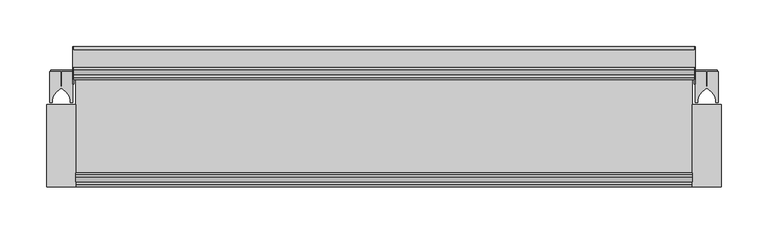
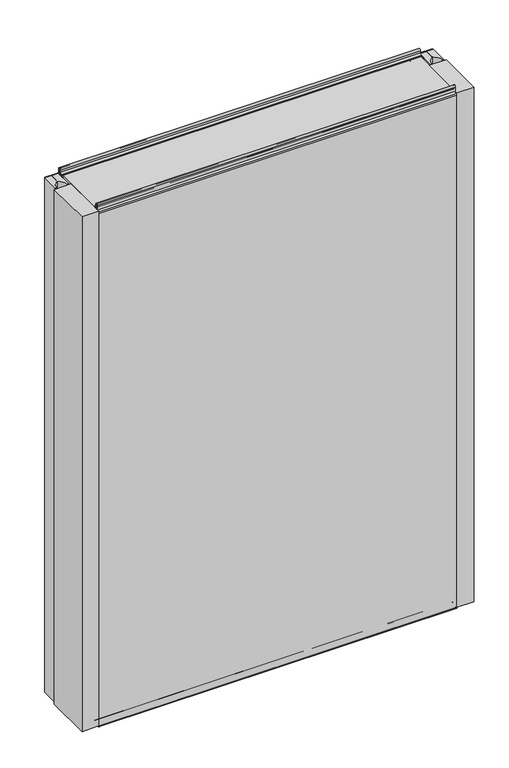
"""IFC4 building model written with IfcOpenShell, lengths in millimetres: plate geometry, Fronttop : Fronttop 150/1000."""

from ifc_helpers import new_model, si_unit, point, frame, frame_2d, origin, origin_with_axes, place, context, project, spatial, polyline, circle_curve, trimmed, segment, composite_curve, outline, extrude, source, transform, mapped, element, save
from ifc_brep_helpers import plane_surface, cylinder_surface, revolved_surface, advanced_brep


def plate_355e1d5d(model_context):
    return source(origin(), model_context, "Body", "SolidModel", [
        advanced_brep(
        [(-331.5, 124.0, 1008.0), (-331.5, 121.0, 1008.0), (-331.5, 121.0, 1004.0), (-331.5, 117.0, 1000.0), (-331.5, 115.0, 1000.0), (-331.5, 115.0, 1001.0), (-331.5, 117.0, 1001.0), (-331.5, 120.0, 1004.0), (-331.5, 120.0, 1008.0), (-331.5, 125.0, 1008.0), (-331.5, 125.0, 1000.0), (-331.5, 124.0, 1000.0), (331.5, 125.0, 1008.0), (331.5, 120.0, 1008.0), (331.5, 120.0, 1004.0), (331.5, 117.0, 1001.0), (331.5, 115.0, 1001.0), (331.5, 115.0, 1000.0), (331.5, 117.0, 1000.0), (331.5, 121.0, 1004.0), (331.5, 121.0, 1008.0), (331.5, 124.0, 1008.0), (331.5, 124.0, 1000.0), (331.5, 125.0, 1000.0), (-331.5, 117.0, 2.0), (331.5, 117.0, 2.0), (331.5, 115.0, 2.0), (-331.5, 115.0, 2.0), (-331.5, 119.0, 4.0), (331.5, 119.0, 4.0), (-331.5, 119.0, 8.0), (331.5, 119.0, 8.0), (-331.5, 126.0, 8.0), (331.5, 126.0, 8.0), (-331.5, 126.0, 0.0), (331.5, 126.0, 0.0), (-331.5, 129.0, -3.0), (331.5, 129.0, -3.0), (-331.5, 125.0, -3.0), (-332.5, 125.0, -3.0), (-332.5, 147.0, -3.0), (-331.5, 147.0, -3.0), (331.5, 147.0, -3.0), (332.5, 147.0, -3.0), (332.5, 125.0, -3.0), (331.5, 125.0, -3.0), (-331.5, 150.0, 0.0), (331.5, 150.0, 0.0), (-332.5, 150.0, 0.0), (-332.5, 150.0, 969.0), (-331.5, 150.0, 969.0), (331.5, 150.0, 969.0), (332.5, 150.0, 969.0), (332.5, 150.0, 0.0), (-331.5, 147.0, 972.0), (331.5, 147.0, 972.0), (-332.5, 147.0, 972.0), (-332.5, 128.0, 972.0), (-331.5, 128.0, 972.0), (331.5, 128.0, 972.0), (332.5, 128.0, 972.0), (332.5, 147.0, 972.0), (-331.5, 125.0, 975.0), (331.5, 125.0, 975.0), (-332.5, 125.0, 975.0), (-332.5, 125.0, 1000.0), (332.5, 125.0, 1000.0), (332.5, 125.0, 975.0), (-331.5, 124.0, 975.0), (331.5, 124.0, 975.0), (-331.5, 128.0, 971.0), (331.5, 128.0, 971.0), (-331.5, 147.0, 971.0), (331.5, 147.0, 971.0), (-331.5, 149.0, 969.0), (331.5, 149.0, 969.0), (-331.5, 149.0, 0.0), (331.5, 149.0, 0.0), (-331.5, 147.0, -2.0), (331.5, 147.0, -2.0), (-331.5, 129.0, -2.0), (331.5, 129.0, -2.0), (-331.5, 127.0, 0.0), (331.5, 127.0, 0.0), (-331.5, 127.0, 8.0), (331.5, 127.0, 8.0), (-331.5, 118.0, 8.0), (331.5, 118.0, 8.0), (-331.5, 118.0, 4.0), (331.5, 118.0, 4.0), (-331.5, 117.0, 3.0), (331.5, 117.0, 3.0), (-331.5, 115.0, 3.0), (331.5, 115.0, 3.0), (332.5, 110.0, 1000.0), (332.5, 110.0, 0.0), (332.5, 125.0, 0.0), (331.5, 125.0, 0.0), (331.5, 110.0, 0.0), (331.5, 110.0, 1000.0), (-332.5, 125.0, 0.0), (-332.5, 110.0, 0.0), (-332.5, 110.0, 1000.0), (-331.5, 110.0, 1000.0), (-331.5, 110.0, 0.0), (-331.5, 125.0, 0.0)],
        [
            (0, 1, circle_curve(frame((-331.5, 122.5, 1008.0), z_axis=(1.0, 0.0, 0.0), x_axis=(0.0, -1.0, 0.0)), 1.5)),
            (1, 2),
            (2, 3, circle_curve(frame((-331.5, 117.0, 1004.0), z_axis=(-1.0, 0.0, 0.0), x_axis=(0.0, -1.0, 0.0)), 4.0)),
            (3, 4),
            (4, 5),
            (5, 6),
            (6, 7, circle_curve(frame((-331.5, 117.0, 1004.0), z_axis=(1.0, 0.0, 0.0), x_axis=(0.0, -1.0, 0.0)), 3.0)),
            (7, 8),
            (8, 9, circle_curve(frame((-331.5, 122.5, 1008.0), z_axis=(-1.0, 0.0, 0.0), x_axis=(0.0, -1.0, 0.0)), 2.5)),
            (9, 10),
            (10, 11),
            (11, 0),
            (12, 13, circle_curve(frame((331.5, 122.5, 1008.0), z_axis=(1.0, 0.0, 0.0), x_axis=(0.0, -1.0, 0.0)), 2.5)),
            (13, 14),
            (14, 15, circle_curve(frame((331.5, 117.0, 1004.0), z_axis=(-1.0, 0.0, 0.0), x_axis=(0.0, -1.0, 0.0)), 3.0)),
            (15, 16),
            (16, 17),
            (17, 18),
            (18, 19, circle_curve(frame((331.5, 117.0, 1004.0), z_axis=(1.0, 0.0, 0.0), x_axis=(0.0, -1.0, 0.0)), 4.0)),
            (19, 20),
            (20, 21, circle_curve(frame((331.5, 122.5, 1008.0), z_axis=(-1.0, 0.0, 0.0), x_axis=(0.0, -1.0, 0.0)), 1.5)),
            (21, 22),
            (22, 23),
            (23, 12),
            (24, 25),
            (25, 26),
            (26, 27),
            (27, 24),
            (24, 28, circle_curve(frame((-331.5, 117.0, 4.0), z_axis=(1.0, 0.0, 0.0), x_axis=(0.0, -1.0, 0.0)), 2.0)),
            (28, 29),
            (29, 25, circle_curve(frame((331.5, 117.0, 4.0), z_axis=(-1.0, 0.0, 0.0), x_axis=(0.0, -1.0, 0.0)), 2.0)),
            (28, 30),
            (30, 31),
            (31, 29),
            (30, 32, circle_curve(frame((-331.5, 122.5, 8.0), z_axis=(-1.0, 0.0, 0.0), x_axis=(0.0, -1.0, 0.0)), 3.5)),
            (32, 33),
            (33, 31, circle_curve(frame((331.5, 122.5, 8.0), z_axis=(1.0, 0.0, 0.0), x_axis=(0.0, -1.0, 0.0)), 3.5)),
            (32, 34),
            (34, 35),
            (35, 33),
            (34, 36, circle_curve(frame((-331.5, 129.0, 0.0), z_axis=(1.0, 0.0, 0.0), x_axis=(0.0, -1.0, 0.0)), 3.0)),
            (36, 37),
            (37, 35, circle_curve(frame((331.5, 129.0, 0.0), z_axis=(-1.0, 0.0, 0.0), x_axis=(0.0, -1.0, 0.0)), 3.0)),
            (36, 38),
            (38, 39),
            (39, 40),
            (40, 41),
            (41, 42),
            (42, 43),
            (43, 44),
            (44, 45),
            (45, 37),
            (41, 46, circle_curve(frame((-331.5, 147.0, 0.0), z_axis=(1.0, 0.0, 0.0), x_axis=(0.0, -1.0, 0.0)), 3.0)),
            (46, 47),
            (47, 42, circle_curve(frame((331.5, 147.0, 0.0), z_axis=(-1.0, 0.0, 0.0), x_axis=(0.0, -1.0, 0.0)), 3.0)),
            (46, 48),
            (48, 49),
            (49, 50),
            (50, 51),
            (51, 52),
            (52, 53),
            (53, 47),
            (50, 54, circle_curve(frame((-331.5, 147.0, 969.0), z_axis=(1.0, 0.0, 0.0), x_axis=(0.0, -1.0, 0.0)), 3.0)),
            (54, 55),
            (55, 51, circle_curve(frame((331.5, 147.0, 969.0), z_axis=(-1.0, 0.0, 0.0), x_axis=(0.0, -1.0, 0.0)), 3.0)),
            (54, 56),
            (56, 57),
            (57, 58),
            (58, 59),
            (59, 60),
            (60, 61),
            (61, 55),
            (58, 62, circle_curve(frame((-331.5, 128.0, 975.0), z_axis=(-1.0, 0.0, 0.0), x_axis=(0.0, -1.0, 0.0)), 3.0)),
            (62, 63),
            (63, 59, circle_curve(frame((331.5, 128.0, 975.0), z_axis=(1.0, 0.0, 0.0), x_axis=(0.0, -1.0, 0.0)), 3.0)),
            (62, 64),
            (64, 65),
            (65, 10),
            (9, 12),
            (23, 66),
            (66, 67),
            (67, 63),
            (8, 13),
            (7, 14),
            (6, 15),
            (5, 16),
            (4, 17),
            (4, 3),
            (3, 18),
            (18, 17),
            (2, 19),
            (1, 20),
            (0, 21),
            (11, 68),
            (68, 69),
            (69, 22),
            (68, 70, circle_curve(frame((-331.5, 128.0, 975.0), z_axis=(1.0, 0.0, 0.0), x_axis=(0.0, -1.0, 0.0)), 4.0)),
            (70, 71),
            (71, 69, circle_curve(frame((331.5, 128.0, 975.0), z_axis=(-1.0, 0.0, 0.0), x_axis=(0.0, -1.0, 0.0)), 4.0)),
            (70, 72),
            (72, 73),
            (73, 71),
            (72, 74, circle_curve(frame((-331.5, 147.0, 969.0), z_axis=(-1.0, 0.0, 0.0), x_axis=(0.0, -1.0, 0.0)), 2.0)),
            (74, 75),
            (75, 73, circle_curve(frame((331.5, 147.0, 969.0), z_axis=(1.0, 0.0, 0.0), x_axis=(0.0, -1.0, 0.0)), 2.0)),
            (74, 76),
            (76, 77),
            (77, 75),
            (76, 78, circle_curve(frame((-331.5, 147.0, 0.0), z_axis=(-1.0, 0.0, 0.0), x_axis=(0.0, -1.0, 0.0)), 2.0)),
            (78, 79),
            (79, 77, circle_curve(frame((331.5, 147.0, 0.0), z_axis=(1.0, 0.0, 0.0), x_axis=(0.0, -1.0, 0.0)), 2.0)),
            (78, 80),
            (80, 81),
            (81, 79),
            (80, 82, circle_curve(frame((-331.5, 129.0, 0.0), z_axis=(-1.0, 0.0, 0.0), x_axis=(0.0, -1.0, 0.0)), 2.0)),
            (82, 83),
            (83, 81, circle_curve(frame((331.5, 129.0, 0.0), z_axis=(1.0, 0.0, 0.0), x_axis=(0.0, -1.0, 0.0)), 2.0)),
            (82, 84),
            (84, 85),
            (85, 83),
            (84, 86, circle_curve(frame((-331.5, 122.5, 8.0), z_axis=(1.0, 0.0, 0.0), x_axis=(0.0, -1.0, 0.0)), 4.5)),
            (86, 87),
            (87, 85, circle_curve(frame((331.5, 122.5, 8.0), z_axis=(-1.0, 0.0, 0.0), x_axis=(0.0, -1.0, 0.0)), 4.5)),
            (86, 88),
            (88, 89),
            (89, 87),
            (88, 90, circle_curve(frame((-331.5, 117.0, 4.0), z_axis=(-1.0, 0.0, 0.0), x_axis=(0.0, -1.0, 0.0)), 1.0)),
            (90, 91),
            (91, 89, circle_curve(frame((331.5, 117.0, 4.0), z_axis=(1.0, 0.0, 0.0), x_axis=(0.0, -1.0, 0.0)), 1.0)),
            (90, 92),
            (92, 93),
            (93, 91),
            (26, 93),
            (92, 27),
            (66, 94),
            (94, 95),
            (95, 96),
            (96, 44),
            (43, 53, circle_curve(frame((332.5, 147.0, 0.0), z_axis=(1.0, 0.0, 0.0), x_axis=(0.0, 1.0, 0.0)), 3.0)),
            (52, 61, circle_curve(frame((332.5, 147.0, 969.0), z_axis=(1.0, 0.0, 0.0), x_axis=(0.0, 1.0, 0.0)), 3.0)),
            (60, 67, circle_curve(frame((332.5, 128.0, 975.0), z_axis=(-1.0, 0.0, 0.0), x_axis=(0.0, 1.0, 0.0)), 3.0)),
            (45, 97),
            (97, 98),
            (98, 99),
            (99, 17),
            (18, 22),
            (99, 94),
            (98, 95),
            (97, 96),
            (64, 57, circle_curve(frame((-332.5, 128.0, 975.0), z_axis=(1.0, 0.0, 0.0), x_axis=(0.0, 1.0, 0.0)), 3.0)),
            (56, 49, circle_curve(frame((-332.5, 147.0, 969.0), z_axis=(-1.0, 0.0, 0.0), x_axis=(0.0, 1.0, 0.0)), 3.0)),
            (48, 40, circle_curve(frame((-332.5, 147.0, 0.0), z_axis=(-1.0, 0.0, 0.0), x_axis=(0.0, 1.0, 0.0)), 3.0)),
            (39, 100),
            (100, 101),
            (101, 102),
            (102, 65),
            (103, 104),
            (104, 105),
            (105, 38),
            (11, 3),
            (4, 103),
            (102, 103),
            (101, 104),
            (100, 105),
        ],
        [
            plane_surface(frame((-331.5, 0.0, 0.0), z_axis=(-1.0, 0.0, 0.0), x_axis=(0.0, 0.0, 1.0))),
            plane_surface(frame((331.5, 0.0, 0.0), z_axis=(1.0, 0.0, 0.0), x_axis=(0.0, 0.0, 1.0))),
            plane_surface(frame((-331.5, 117.0, 2.0), z_axis=(0.0, 0.0, -1.0), x_axis=(1.0, 0.0, 0.0))),
            cylinder_surface(frame((-331.5, 117.0, 4.0), z_axis=(-1.0, 0.0, 0.0), x_axis=(0.0, -1.0, 0.0)), 2.0),
            plane_surface(frame((-331.5, 119.0, 8.0), z_axis=(0.0, 1.0, 0.0), x_axis=(1.0, 0.0, 0.0))),
            revolved_surface(polyline([(331.5, 119.0, 8.0), (-331.5, 119.0, 8.0)]), (-331.5, 122.5, 8.0), (1.0, 0.0, 0.0)),
            plane_surface(frame((-331.5, 126.0, 0.0), z_axis=(0.0, -1.0, 0.0), x_axis=(1.0, 0.0, 0.0))),
            cylinder_surface(frame((-331.5, 129.0, 0.0), z_axis=(-1.0, 0.0, 0.0), x_axis=(0.0, -1.0, 0.0)), 3.0),
            plane_surface(frame((-331.5, 147.0, -3.0), z_axis=(0.0, 0.0, -1.0), x_axis=(1.0, 0.0, 0.0))),
            cylinder_surface(frame((-331.5, 147.0, 0.0), z_axis=(-1.0, 0.0, 0.0), x_axis=(0.0, -1.0, 0.0)), 3.0),
            plane_surface(frame((-331.5, 150.0, 969.0), z_axis=(0.0, 1.0, 0.0), x_axis=(1.0, 0.0, 0.0))),
            cylinder_surface(frame((-331.5, 147.0, 969.0), z_axis=(-1.0, 0.0, 0.0), x_axis=(0.0, -1.0, 0.0)), 3.0),
            plane_surface(frame((-331.5, 128.0, 972.0), z_axis=(0.0, 0.0, 1.0), x_axis=(1.0, 0.0, 0.0))),
            revolved_surface(polyline([(331.5, 125.0, 975.0), (-331.5, 125.0, 975.0)]), (-331.5, 128.0, 975.0), (1.0, 0.0, 0.0)),
            plane_surface(frame((-331.5, 125.0, 1008.0), z_axis=(0.0, 1.0, 0.0), x_axis=(1.0, 0.0, 0.0))),
            cylinder_surface(frame((-331.5, 122.5, 1008.0), z_axis=(-1.0, 0.0, 0.0), x_axis=(0.0, -1.0, 0.0)), 2.5),
            plane_surface(frame((-331.5, 120.0, 1004.0), z_axis=(0.0, -1.0, 0.0), x_axis=(1.0, 0.0, 0.0))),
            revolved_surface(polyline([(331.5, 114.0, 1004.0), (-331.5, 114.0, 1004.0)]), (-331.5, 117.0, 1004.0), (1.0, 0.0, 0.0)),
            plane_surface(frame((-331.5, 115.0, 1001.0), z_axis=(0.0, 0.0, 1.0), x_axis=(1.0, 0.0, 0.0))),
            plane_surface(frame((-331.5, 115.0, 1000.0), z_axis=(0.0, -1.0, 0.0), x_axis=(1.0, 0.0, 0.0))),
            plane_surface(frame((-331.5, 117.0, 1000.0), z_axis=(0.0, 0.0, -1.0), x_axis=(1.0, 0.0, 0.0))),
            cylinder_surface(frame((-331.5, 117.0, 1004.0), z_axis=(-1.0, 0.0, 0.0), x_axis=(0.0, -1.0, 0.0)), 4.0),
            plane_surface(frame((-331.5, 121.0, 1008.0), z_axis=(0.0, 1.0, 0.0), x_axis=(1.0, 0.0, 0.0))),
            revolved_surface(polyline([(331.5, 121.0, 1008.0), (-331.5, 121.0, 1008.0)]), (-331.5, 122.5, 1008.0), (1.0, 0.0, 0.0)),
            plane_surface(frame((-331.5, 124.0, 975.0), z_axis=(0.0, -1.0, 0.0), x_axis=(1.0, 0.0, 0.0))),
            cylinder_surface(frame((-331.5, 128.0, 975.0), z_axis=(-1.0, 0.0, 0.0), x_axis=(0.0, -1.0, 0.0)), 4.0),
            plane_surface(frame((-331.5, 147.0, 971.0), z_axis=(0.0, 0.0, -1.0), x_axis=(1.0, 0.0, 0.0))),
            revolved_surface(polyline([(331.5, 145.0, 969.0), (-331.5, 145.0, 969.0)]), (-331.5, 147.0, 969.0), (1.0, 0.0, 0.0)),
            plane_surface(frame((-331.5, 149.0, 0.0), z_axis=(0.0, -1.0, 0.0), x_axis=(1.0, 0.0, 0.0))),
            revolved_surface(polyline([(331.5, 145.0, 0.0), (-331.5, 145.0, 0.0)]), (-331.5, 147.0, 0.0), (1.0, 0.0, 0.0)),
            plane_surface(frame((-331.5, 129.0, -2.0), z_axis=(0.0, 0.0, 1.0), x_axis=(1.0, 0.0, 0.0))),
            revolved_surface(polyline([(331.5, 127.0, 0.0), (-331.5, 127.0, 0.0)]), (-331.5, 129.0, 0.0), (1.0, 0.0, 0.0)),
            plane_surface(frame((-331.5, 127.0, 8.0), z_axis=(0.0, 1.0, 0.0), x_axis=(1.0, 0.0, 0.0))),
            cylinder_surface(frame((-331.5, 122.5, 8.0), z_axis=(-1.0, 0.0, 0.0), x_axis=(0.0, -1.0, 0.0)), 4.5),
            plane_surface(frame((-331.5, 118.0, 4.0), z_axis=(0.0, -1.0, 0.0), x_axis=(1.0, 0.0, 0.0))),
            revolved_surface(polyline([(331.5, 116.0, 4.0), (-331.5, 116.0, 4.0)]), (-331.5, 117.0, 4.0), (1.0, 0.0, 0.0)),
            plane_surface(frame((-331.5, 115.0, 3.0), z_axis=(0.0, 0.0, 1.0), x_axis=(1.0, 0.0, 0.0))),
            plane_surface(frame((-331.5, 115.0, 2.0), z_axis=(0.0, -1.0, 0.0), x_axis=(1.0, 0.0, 0.0))),
            plane_surface(frame((332.5, 125.0, 1000.0), z_axis=(1.0, 0.0, 0.0), x_axis=(0.0, -1.0, 0.0))),
            plane_surface(frame((331.5, 125.0, 1000.0), z_axis=(-1.0, 0.0, 0.0), x_axis=(0.0, 1.0, 0.0))),
            plane_surface(frame((332.5, 125.0, 1000.0), z_axis=(0.0, 0.0, 1.0), x_axis=(-1.0, 0.0, 0.0))),
            plane_surface(frame((332.5, 110.0, 1000.0), z_axis=(0.0, -1.0, 0.0), x_axis=(-1.0, 0.0, 0.0))),
            plane_surface(frame((332.5, 110.0, 0.0), z_axis=(0.0, 0.0, -1.0), x_axis=(-1.0, 0.0, 0.0))),
            cylinder_surface(frame((331.5, 147.0, 0.0), z_axis=(1.0, 0.0, 0.0), x_axis=(0.0, 1.0, 0.0)), 3.0),
            cylinder_surface(frame((331.5, 147.0, 969.0), z_axis=(1.0, 0.0, 0.0), x_axis=(0.0, 1.0, 0.0)), 3.0),
            revolved_surface(polyline([(331.5, 131.0, 975.0), (332.5, 131.0, 975.0)]), (331.5, 128.0, 975.0), (-1.0, 0.0, 0.0)),
            plane_surface(frame((-332.5, 125.0, 1000.0), z_axis=(-1.0, 0.0, 0.0), x_axis=(0.0, 1.0, 0.0))),
            plane_surface(frame((-331.5, 125.0, 1000.0), z_axis=(1.0, 0.0, 0.0), x_axis=(0.0, -1.0, 0.0))),
            plane_surface(frame((-331.5, 125.0, 1000.0), z_axis=(0.0, 0.0, 1.0), x_axis=(-1.0, 0.0, 0.0))),
            plane_surface(frame((-331.5, 110.0, 1000.0), z_axis=(0.0, -1.0, 0.0), x_axis=(-1.0, 0.0, 0.0))),
            plane_surface(frame((-331.5, 110.0, 0.0), z_axis=(0.0, 0.0, -1.0), x_axis=(-1.0, 0.0, 0.0))),
            cylinder_surface(frame((-332.5, 147.0, 0.0), z_axis=(1.0, 0.0, 0.0), x_axis=(0.0, 1.0, 0.0)), 3.0),
            cylinder_surface(frame((-332.5, 147.0, 969.0), z_axis=(1.0, 0.0, 0.0), x_axis=(0.0, 1.0, 0.0)), 3.0),
            revolved_surface(polyline([(-332.5, 131.0, 975.0), (-331.5, 131.0, 975.0)]), (-332.5, 128.0, 975.0), (-1.0, 0.0, 0.0)),
            plane_surface(frame((332.5, 125.0, 0.0), z_axis=(0.0, -1.0, 0.0), x_axis=(-1.0, 0.0, 0.0))),
            plane_surface(frame((-331.5, 125.0, 0.0), z_axis=(0.0, -1.0, 0.0), x_axis=(-1.0, 0.0, 0.0))),
        ],
        [
            (0, [[1, 2, 3, 4, 5, 6, 7, 8, 9, 10, 11, 12]]),
            (1, [[13, 14, 15, 16, 17, 18, 19, 20, 21, 22, 23, 24]]),
            (2, [[25, 26, 27, 28]]),
            (3, [[-25, 29, 30, 31]]),
            (4, [[-30, 32, 33, 34]]),
            (5, [[-33, 35, 36, 37]]),
            (6, [[-36, 38, 39, 40]]),
            (7, [[-39, 41, 42, 43]]),
            (8, [[-42, 44, 45, 46, 47, 48, 49, 50, 51, 52]]),
            (9, [[-48, 53, 54, 55]]),
            (10, [[-54, 56, 57, 58, 59, 60, 61, 62]]),
            (11, [[-59, 63, 64, 65]]),
            (12, [[-64, 66, 67, 68, 69, 70, 71, 72]]),
            (13, [[-69, 73, 74, 75]]),
            (14, [[-74, 76, 77, 78, -10, 79, -24, 80, 81, 82]]),
            (15, [[-9, 83, -13, -79]]),
            (16, [[-8, 84, -14, -83]]),
            (17, [[-7, 85, -15, -84]]),
            (18, [[-6, 86, -16, -85]]),
            (19, [[-5, 87, -17, -86]]),
            (20, [[-87, 88, 89, 90]]),
            (21, [[-3, 91, -19, -89]]),
            (22, [[-2, 92, -20, -91]]),
            (23, [[-1, 93, -21, -92]]),
            (24, [[-93, -12, 94, 95, 96, -22]]),
            (25, [[-95, 97, 98, 99]]),
            (26, [[-98, 100, 101, 102]]),
            (27, [[-101, 103, 104, 105]]),
            (28, [[-104, 106, 107, 108]]),
            (29, [[-107, 109, 110, 111]]),
            (30, [[-110, 112, 113, 114]]),
            (31, [[-113, 115, 116, 117]]),
            (32, [[-116, 118, 119, 120]]),
            (33, [[-119, 121, 122, 123]]),
            (34, [[-122, 124, 125, 126]]),
            (35, [[-125, 127, 128, 129]]),
            (36, [[-128, 130, 131, 132]]),
            (37, [[-27, 133, -131, 134]]),
            (38, [[135, 136, 137, 138, -50, 139, -61, 140, -71, 141, -81]]),
            (39, [[142, 143, 144, 145, -90, 146, -96, -99, -102, -105, -108, -111, -114, -117, -120, -123, -126, -129, -132, -133, -26, -31, -34, -37, -40, -43, -52]]),
            (40, [[-135, -80, -23, -146, -18, -145, 147]]),
            (41, [[-136, -147, -144, 148]]),
            (42, [[-137, -148, -143, 149]]),
            (43, [[-139, -49, -55, -62]]),
            (44, [[-140, -60, -65, -72]]),
            (45, [[-141, -70, -75, -82]]),
            (46, [[-77, 150, -67, 151, -57, 152, -46, 153, 154, 155, 156]]),
            (47, [[157, 158, 159, -44, -41, -38, -35, -32, -29, -28, -134, -130, -127, -124, -121, -118, -115, -112, -109, -106, -103, -100, -97, -94, 160, -88, 161]]),
            (48, [[-156, 162, -161, -4, -160, -11, -78]]),
            (49, [[-155, 163, -157, -162]]),
            (50, [[-154, 164, -158, -163]]),
            (51, [[-152, -56, -53, -47]]),
            (52, [[-151, -66, -63, -58]]),
            (53, [[-150, -76, -73, -68]]),
            (54, [[-138, -149, -142, -51]]),
            (55, [[-153, -45, -159, -164]]),
        ],
    ),
        extrude(outline(composite_curve([segment(polyline([(-357.5001545, 123.5), (-345.75, 123.5), (-345.75, 107.5), (-344.25, 107.5), (-344.25, 123.5), (-332.4998455, 123.5), (-332.4998455, 90.0), (-335.25, 90.0), (-335.25, 92.5)]), True, "CONTINUOUS"), segment(trimmed(circle_curve(frame_2d((-353.0338021, 89.3183984)), 18.0661619), [point((-335.25, 92.5))], [point((-345.0, 105.5))], True, "CARTESIAN"), True, "CONTINUOUS"), segment(trimmed(circle_curve(frame_2d((-336.9661979, 89.3183984)), 18.0661619), [point((-345.0, 105.5))], [point((-354.75, 92.5))], True, "CARTESIAN"), True, "CONTINUOUS"), segment(polyline([(-354.75, 92.5), (-354.75, 90.0), (-357.5001545, 90.0), (-357.5001545, 123.5)]), True, "CONTINUOUS")], self_intersect=False)), origin_with_axes(), (0.0, 0.0, 1.0), 1000.0),
        extrude(outline(polyline([(-329.5, 0.0), (-360.5, 0.0), (-360.5, 88.0), (-329.5, 88.0), (-329.5, 0.0)])), origin_with_axes(), (0.0, 0.0, 1.0), 1000.0),
        extrude(outline(polyline([(-356.5051154, 125.0), (-333.4948846, 125.0), (-333.4948846, 123.5), (-344.3497504, 123.5), (-344.3497504, 109.0759655), (-345.65, 109.0759655), (-345.65, 123.5), (-356.5051154, 123.5), (-356.5051154, 125.0)])), origin_with_axes(), (0.0, 0.0, 1.0), 1000.0),
        extrude(outline(composite_curve([segment(polyline([(332.4998455, 123.5), (344.25, 123.5), (344.25, 107.5), (345.75, 107.5), (345.75, 123.5), (357.5001545, 123.5), (357.5001545, 90.0), (354.75, 90.0), (354.75, 92.5)]), True, "CONTINUOUS"), segment(trimmed(circle_curve(frame_2d((336.9661979, 89.3183984)), 18.0661619), [point((354.75, 92.5))], [point((345.0, 105.5))], True, "CARTESIAN"), True, "CONTINUOUS"), segment(trimmed(circle_curve(frame_2d((353.0338021, 89.3183984)), 18.0661619), [point((345.0, 105.5))], [point((335.25, 92.5))], True, "CARTESIAN"), True, "CONTINUOUS"), segment(polyline([(335.25, 92.5), (335.25, 90.0), (332.4998455, 90.0), (332.4998455, 123.5)]), True, "CONTINUOUS")], self_intersect=False)), origin_with_axes(), (0.0, 0.0, 1.0), 1000.0),
        extrude(outline(polyline([(360.5, 0.0), (329.5, 0.0), (329.5, 88.0), (360.5, 88.0), (360.5, 0.0)])), origin_with_axes(), (0.0, 0.0, 1.0), 1000.0),
        extrude(outline(polyline([(333.4948846, 125.0), (356.5051154, 125.0), (356.5051154, 123.5), (345.6502496, 123.5), (345.6502496, 109.0759655), (344.35, 109.0759655), (344.35, 123.5), (333.4948846, 123.5), (333.4948846, 125.0)])), origin_with_axes(), (0.0, 0.0, 1.0), 1000.0),
        advanced_brep(
        [(-329.5, 13.0, 1001.0), (-329.5, 15.0, 1001.0), (-329.5, 15.0, 1000.0), (-329.5, 13.0, 1000.0), (-329.5, 9.0, 1004.0), (-329.5, 9.0, 1008.0), (-329.5, 6.0, 1008.0), (-329.5, 6.0, 999.5), (-329.5, 2.1134897, 996.0214069), (-329.5, 1.0, 995.0), (-329.5, 1.0, -0.5), (-329.5, 3.0, -0.5), (-329.5, 3.0, 8.0), (-329.5, 12.0, 8.0), (-329.5, 12.0, 4.0), (-329.5, 13.0, 3.0), (-329.5, 15.0, 3.0), (-329.5, 15.0, 2.0), (-329.5, 13.0, 2.0), (-329.5, 11.0, 4.0), (-329.5, 11.0, 8.0), (-329.5, 4.0, 8.0), (-329.5, 4.0, -0.5), (-329.5, 0.0, -0.5), (-329.5, 0.0, 995.0), (-329.5, 2.220863, 996.9877675), (-329.5, 5.0, 999.5), (-329.5, 5.0, 1008.0), (-329.5, 10.0, 1008.0), (-329.5, 10.0, 1004.0), (329.5, 13.0, 1001.0), (329.5, 10.0, 1004.0), (329.5, 10.0, 1008.0), (329.5, 5.0, 1008.0), (329.5, 5.0, 999.5), (329.5, 2.2239212, 997.0152907), (329.5, 0.0, 995.0), (329.5, 0.0, -0.5), (329.5, 4.0, -0.5), (329.5, 4.0, 8.0), (329.5, 11.0, 8.0), (329.5, 11.0, 4.0), (329.5, 13.0, 2.0), (329.5, 15.0, 2.0), (329.5, 15.0, 3.0), (329.5, 13.0, 3.0), (329.5, 12.0, 4.0), (329.5, 12.0, 8.0), (329.5, 3.0, 8.0), (329.5, 3.0, -0.5), (329.5, 1.0, -0.5), (329.5, 1.0, 995.0), (329.5, 2.1104315, 995.9938837), (329.5, 6.0, 999.5), (329.5, 6.0, 1008.0), (329.5, 9.0, 1008.0), (329.5, 9.0, 1004.0), (329.5, 13.0, 1000.0), (329.5, 15.0, 1000.0), (329.5, 15.0, 1001.0)],
        [
            (0, 1),
            (1, 2),
            (2, 3),
            (3, 4, circle_curve(frame((-329.5, 13.0, 1004.0), z_axis=(-1.0, 0.0, 0.0), x_axis=(0.0, -1.0, 0.0)), 4.0)),
            (4, 5),
            (5, 6, circle_curve(frame((-329.5, 7.5, 1008.0), z_axis=(1.0, 0.0, 0.0), x_axis=(0.0, -1.0, 0.0)), 1.5)),
            (6, 7),
            (7, 8, circle_curve(frame((-329.5, 2.5, 999.5), z_axis=(-1.0, 0.0, 0.0), x_axis=(0.0, -1.0, 0.0)), 3.5)),
            (8, 9, circle_curve(frame((-329.5, 2.0, 995.0), z_axis=(1.0, 0.0, 0.0), x_axis=(0.0, -1.0, 0.0)), 1.0)),
            (9, 10),
            (10, 11, circle_curve(frame((-329.5, 2.0, -0.5), z_axis=(1.0, 0.0, 0.0), x_axis=(0.0, -1.0, 0.0)), 1.0)),
            (11, 12),
            (12, 13, circle_curve(frame((-329.5, 7.5, 8.0), z_axis=(-1.0, 0.0, 0.0), x_axis=(0.0, -1.0, 0.0)), 4.5)),
            (13, 14),
            (14, 15, circle_curve(frame((-329.5, 13.0, 4.0), z_axis=(1.0, 0.0, 0.0), x_axis=(0.0, -1.0, 0.0)), 1.0)),
            (15, 16),
            (16, 17),
            (17, 18),
            (18, 19, circle_curve(frame((-329.5, 13.0, 4.0), z_axis=(-1.0, 0.0, 0.0), x_axis=(0.0, -1.0, 0.0)), 2.0)),
            (19, 20),
            (20, 21, circle_curve(frame((-329.5, 7.5, 8.0), z_axis=(1.0, 0.0, 0.0), x_axis=(0.0, -1.0, 0.0)), 3.5)),
            (21, 22),
            (22, 23, circle_curve(frame((-329.5, 2.0, -0.5), z_axis=(-1.0, 0.0, 0.0), x_axis=(0.0, -1.0, 0.0)), 2.0)),
            (23, 24),
            (24, 25, circle_curve(frame((-329.5, 2.0, 995.0), z_axis=(-1.0, 0.0, 0.0), x_axis=(0.0, -1.0, 0.0)), 2.0)),
            (25, 26, circle_curve(frame((-329.5, 2.5, 999.5), z_axis=(1.0, 0.0, 0.0), x_axis=(0.0, -1.0, 0.0)), 2.5)),
            (26, 27),
            (27, 28, circle_curve(frame((-329.5, 7.5, 1008.0), z_axis=(-1.0, 0.0, 0.0), x_axis=(0.0, -1.0, 0.0)), 2.5)),
            (28, 29),
            (29, 0, circle_curve(frame((-329.5, 13.0, 1004.0), z_axis=(1.0, 0.0, 0.0), x_axis=(0.0, -1.0, 0.0)), 3.0)),
            (30, 31, circle_curve(frame((329.5, 13.0, 1004.0), z_axis=(-1.0, 0.0, 0.0), x_axis=(0.0, -1.0, 0.0)), 3.0)),
            (31, 32),
            (32, 33, circle_curve(frame((329.5, 7.5, 1008.0), z_axis=(1.0, 0.0, 0.0), x_axis=(0.0, -1.0, 0.0)), 2.5)),
            (33, 34),
            (34, 35, circle_curve(frame((329.5, 2.5, 999.5), z_axis=(-1.0, 0.0, 0.0), x_axis=(0.0, -1.0, 0.0)), 2.5)),
            (35, 36, circle_curve(frame((329.5, 2.0, 995.0), z_axis=(1.0, 0.0, 0.0), x_axis=(0.0, -1.0, 0.0)), 2.0)),
            (36, 37),
            (37, 38, circle_curve(frame((329.5, 2.0, -0.5), z_axis=(1.0, 0.0, 0.0), x_axis=(0.0, -1.0, 0.0)), 2.0)),
            (38, 39),
            (39, 40, circle_curve(frame((329.5, 7.5, 8.0), z_axis=(-1.0, 0.0, 0.0), x_axis=(0.0, -1.0, 0.0)), 3.5)),
            (40, 41),
            (41, 42, circle_curve(frame((329.5, 13.0, 4.0), z_axis=(1.0, 0.0, 0.0), x_axis=(0.0, -1.0, 0.0)), 2.0)),
            (42, 43),
            (43, 44),
            (44, 45),
            (45, 46, circle_curve(frame((329.5, 13.0, 4.0), z_axis=(-1.0, 0.0, 0.0), x_axis=(0.0, -1.0, 0.0)), 1.0)),
            (46, 47),
            (47, 48, circle_curve(frame((329.5, 7.5, 8.0), z_axis=(1.0, 0.0, 0.0), x_axis=(0.0, -1.0, 0.0)), 4.5)),
            (48, 49),
            (49, 50, circle_curve(frame((329.5, 2.0, -0.5), z_axis=(-1.0, 0.0, 0.0), x_axis=(0.0, -1.0, 0.0)), 1.0)),
            (50, 51),
            (51, 52, circle_curve(frame((329.5, 2.0, 995.0), z_axis=(-1.0, 0.0, 0.0), x_axis=(0.0, -1.0, 0.0)), 1.0)),
            (52, 53, circle_curve(frame((329.5, 2.5, 999.5), z_axis=(1.0, 0.0, 0.0), x_axis=(0.0, -1.0, 0.0)), 3.5)),
            (53, 54),
            (54, 55, circle_curve(frame((329.5, 7.5, 1008.0), z_axis=(-1.0, 0.0, 0.0), x_axis=(0.0, -1.0, 0.0)), 1.5)),
            (55, 56),
            (56, 57, circle_curve(frame((329.5, 13.0, 1004.0), z_axis=(1.0, 0.0, 0.0), x_axis=(0.0, -1.0, 0.0)), 4.0)),
            (57, 58),
            (58, 59),
            (59, 30),
            (0, 30),
            (59, 1),
            (58, 2),
            (57, 3),
            (56, 4),
            (55, 5),
            (54, 6),
            (53, 7),
            (52, 8),
            (51, 9),
            (50, 10),
            (49, 11),
            (48, 12),
            (47, 13),
            (46, 14),
            (45, 15),
            (44, 16),
            (43, 17),
            (42, 18),
            (41, 19),
            (40, 20),
            (39, 21),
            (38, 22),
            (37, 23),
            (36, 24),
            (35, 25),
            (34, 26),
            (33, 27),
            (32, 28),
            (31, 29),
        ],
        [
            plane_surface(frame((-329.5, 0.0, 0.0), z_axis=(-1.0, 0.0, 0.0), x_axis=(0.0, 0.0, 1.0))),
            plane_surface(frame((329.5, 0.0, 0.0), z_axis=(1.0, 0.0, 0.0), x_axis=(0.0, 0.0, 1.0))),
            plane_surface(frame((-329.5, 13.0, 1001.0), z_axis=(0.0, 0.0, 1.0), x_axis=(1.0, 0.0, 0.0))),
            plane_surface(frame((-329.5, 15.0, 1001.0), z_axis=(0.0, 1.0, 0.0), x_axis=(1.0, 0.0, 0.0))),
            plane_surface(frame((-329.5, 15.0, 1000.0), z_axis=(0.0, 0.0, -1.0), x_axis=(1.0, 0.0, 0.0))),
            cylinder_surface(frame((-329.5, 13.0, 1004.0), z_axis=(-1.0, 0.0, 0.0), x_axis=(0.0, -1.0, 0.0)), 4.0),
            plane_surface(frame((-329.5, 9.0, 1004.0), z_axis=(0.0, -1.0, 0.0), x_axis=(1.0, 0.0, 0.0))),
            revolved_surface(polyline([(329.5, 6.0, 1008.0), (-329.5, 6.0, 1008.0)]), (-329.5, 7.5, 1008.0), (1.0, 0.0, 0.0)),
            plane_surface(frame((-329.5, 6.0, 1008.0), z_axis=(0.0, 1.0, 0.0), x_axis=(1.0, 0.0, 0.0))),
            cylinder_surface(frame((-329.5, 2.5, 999.5), z_axis=(-1.0, 0.0, 0.0), x_axis=(0.0, -1.0, 0.0)), 3.5),
            revolved_surface(polyline([(329.5, 1.0, 995.0), (-329.5, 1.0, 995.0)]), (-329.5, 2.0, 995.0), (1.0, 0.0, 0.0)),
            plane_surface(frame((-329.5, 1.0, 995.0), z_axis=(0.0, 1.0, 0.0), x_axis=(1.0, 0.0, 0.0))),
            revolved_surface(polyline([(329.5, 1.0, -0.5), (-329.5, 1.0, -0.5)]), (-329.5, 2.0, -0.5), (1.0, 0.0, 0.0)),
            plane_surface(frame((-329.5, 3.0, -0.5), z_axis=(0.0, -1.0, 0.0), x_axis=(1.0, 0.0, 0.0))),
            cylinder_surface(frame((-329.5, 7.5, 8.0), z_axis=(-1.0, 0.0, 0.0), x_axis=(0.0, -1.0, 0.0)), 4.5),
            plane_surface(frame((-329.5, 12.0, 8.0), z_axis=(0.0, 1.0, 0.0), x_axis=(1.0, 0.0, 0.0))),
            revolved_surface(polyline([(329.5, 12.0, 4.0), (-329.5, 12.0, 4.0)]), (-329.5, 13.0, 4.0), (1.0, 0.0, 0.0)),
            plane_surface(frame((-329.5, 13.0, 3.0), z_axis=(0.0, 0.0, 1.0), x_axis=(1.0, 0.0, 0.0))),
            plane_surface(frame((-329.5, 15.0, 3.0), z_axis=(0.0, 1.0, 0.0), x_axis=(1.0, 0.0, 0.0))),
            plane_surface(frame((-329.5, 15.0, 2.0), z_axis=(0.0, 0.0, -1.0), x_axis=(1.0, 0.0, 0.0))),
            cylinder_surface(frame((-329.5, 13.0, 4.0), z_axis=(-1.0, 0.0, 0.0), x_axis=(0.0, -1.0, 0.0)), 2.0),
            plane_surface(frame((-329.5, 11.0, 4.0), z_axis=(0.0, -1.0, 0.0), x_axis=(1.0, 0.0, 0.0))),
            revolved_surface(polyline([(329.5, 4.0, 8.0), (-329.5, 4.0, 8.0)]), (-329.5, 7.5, 8.0), (1.0, 0.0, 0.0)),
            plane_surface(frame((-329.5, 4.0, 8.0), z_axis=(0.0, 1.0, 0.0), x_axis=(1.0, 0.0, 0.0))),
            cylinder_surface(frame((-329.5, 2.0, -0.5), z_axis=(-1.0, 0.0, 0.0), x_axis=(0.0, -1.0, 0.0)), 2.0),
            plane_surface(frame((-329.5, 0.0, -0.5), z_axis=(0.0, -1.0, 0.0), x_axis=(1.0, 0.0, 0.0))),
            cylinder_surface(frame((-329.5, 2.0, 995.0), z_axis=(-1.0, 0.0, 0.0), x_axis=(0.0, -1.0, 0.0)), 2.0),
            revolved_surface(polyline([(329.5, 0.0, 999.5), (-329.5, 0.0, 999.5)]), (-329.5, 2.5, 999.5), (1.0, 0.0, 0.0)),
            plane_surface(frame((-329.5, 5.0, 999.5), z_axis=(0.0, -1.0, 0.0), x_axis=(1.0, 0.0, 0.0))),
            cylinder_surface(frame((-329.5, 7.5, 1008.0), z_axis=(-1.0, 0.0, 0.0), x_axis=(0.0, -1.0, 0.0)), 2.5),
            plane_surface(frame((-329.5, 10.0, 1008.0), z_axis=(0.0, 1.0, 0.0), x_axis=(1.0, 0.0, 0.0))),
            revolved_surface(polyline([(329.5, 10.0, 1004.0), (-329.5, 10.0, 1004.0)]), (-329.5, 13.0, 1004.0), (1.0, 0.0, 0.0)),
        ],
        [
            (0, [[1, 2, 3, 4, 5, 6, 7, 8, 9, 10, 11, 12, 13, 14, 15, 16, 17, 18, 19, 20, 21, 22, 23, 24, 25, 26, 27, 28, 29, 30]]),
            (1, [[31, 32, 33, 34, 35, 36, 37, 38, 39, 40, 41, 42, 43, 44, 45, 46, 47, 48, 49, 50, 51, 52, 53, 54, 55, 56, 57, 58, 59, 60]]),
            (2, [[-1, 61, -60, 62]]),
            (3, [[-2, -62, -59, 63]]),
            (4, [[-3, -63, -58, 64]]),
            (5, [[-4, -64, -57, 65]]),
            (6, [[-5, -65, -56, 66]]),
            (7, [[-6, -66, -55, 67]]),
            (8, [[-7, -67, -54, 68]]),
            (9, [[-8, -68, -53, 69]]),
            (10, [[-9, -69, -52, 70]]),
            (11, [[-10, -70, -51, 71]]),
            (12, [[-11, -71, -50, 72]]),
            (13, [[-12, -72, -49, 73]]),
            (14, [[-13, -73, -48, 74]]),
            (15, [[-14, -74, -47, 75]]),
            (16, [[-15, -75, -46, 76]]),
            (17, [[-16, -76, -45, 77]]),
            (18, [[-17, -77, -44, 78]]),
            (19, [[-18, -78, -43, 79]]),
            (20, [[-19, -79, -42, 80]]),
            (21, [[-20, -80, -41, 81]]),
            (22, [[-21, -81, -40, 82]]),
            (23, [[-22, -82, -39, 83]]),
            (24, [[-23, -83, -38, 84]]),
            (25, [[-24, -84, -37, 85]]),
            (26, [[-25, -85, -36, 86]]),
            (27, [[-26, -86, -35, 87]]),
            (28, [[-27, -87, -34, 88]]),
            (29, [[-28, -88, -33, 89]]),
            (30, [[-29, -89, -32, 90]]),
            (31, [[-30, -90, -31, -61]]),
        ],
    ),
        extrude(outline(composite_curve([segment(polyline([(15.0, 3.0), (13.0, 3.0)]), True, "CONTINUOUS"), segment(trimmed(circle_curve(frame_2d((13.0, 4.0)), 1.0), [point((13.0, 3.0))], [point((12.0, 4.0))], False, "CARTESIAN"), True, "CONTINUOUS"), segment(polyline([(12.0, 4.0), (12.0, 8.0)]), True, "CONTINUOUS"), segment(trimmed(circle_curve(frame_2d((7.5, 8.0)), 4.5), [point((12.0, 8.0))], [point((3.0, 8.0))], True, "CARTESIAN"), True, "CONTINUOUS"), segment(polyline([(3.0, 8.0), (3.0, -0.5)]), True, "CONTINUOUS"), segment(trimmed(circle_curve(frame_2d((2.0, -0.5)), 1.0), [point((3.0, -0.5))], [point((1.0, -0.5))], False, "CARTESIAN"), True, "CONTINUOUS"), segment(polyline([(1.0, -0.5), (1.0, 995.0278643)]), True, "CONTINUOUS"), segment(trimmed(circle_curve(frame_2d((2.0, 995.0278643)), 1.0), [point((1.0, 995.0278643))], [point((2.1111111, 996.0216723))], False, "CARTESIAN"), True, "CONTINUOUS"), segment(trimmed(circle_curve(frame_2d((2.5, 999.5)), 3.5), [point((2.1111111, 996.0216723))], [point((6.0, 999.5))], True, "CARTESIAN"), True, "CONTINUOUS"), segment(polyline([(6.0, 999.5), (6.0, 1008.0)]), True, "CONTINUOUS"), segment(trimmed(circle_curve(frame_2d((7.5, 1008.0)), 1.5), [point((6.0, 1008.0))], [point((9.0, 1008.0))], False, "CARTESIAN"), True, "CONTINUOUS"), segment(polyline([(9.0, 1008.0), (9.0, 1004.0)]), True, "CONTINUOUS"), segment(trimmed(circle_curve(frame_2d((13.0, 1004.0)), 4.0), [point((9.0, 1004.0))], [point((13.0, 1000.0))], True, "CARTESIAN"), True, "CONTINUOUS"), segment(polyline([(13.0, 1000.0), (117.0, 1000.0)]), True, "CONTINUOUS"), segment(trimmed(circle_curve(frame_2d((117.0, 1004.0)), 4.0), [point((117.0, 1000.0))], [point((121.0, 1004.0))], True, "CARTESIAN"), True, "CONTINUOUS"), segment(polyline([(121.0, 1004.0), (121.0, 1008.0)]), True, "CONTINUOUS"), segment(trimmed(circle_curve(frame_2d((122.5, 1008.0)), 1.5), [point((121.0, 1008.0))], [point((124.0, 1008.0))], False, "CARTESIAN"), True, "CONTINUOUS"), segment(polyline([(124.0, 1008.0), (124.0, 975.0)]), True, "CONTINUOUS"), segment(trimmed(circle_curve(frame_2d((128.0, 975.0)), 4.0), [point((124.0, 975.0))], [point((128.0, 971.0))], True, "CARTESIAN"), True, "CONTINUOUS"), segment(polyline([(128.0, 971.0), (147.0, 971.0)]), True, "CONTINUOUS"), segment(trimmed(circle_curve(frame_2d((147.0, 969.0)), 2.0), [point((147.0, 971.0))], [point((149.0, 969.0))], False, "CARTESIAN"), True, "CONTINUOUS"), segment(polyline([(149.0, 969.0), (149.0, 0.0)]), True, "CONTINUOUS"), segment(trimmed(circle_curve(frame_2d((147.0, 0.0)), 2.0), [point((149.0, 0.0))], [point((147.0, -2.0))], False, "CARTESIAN"), True, "CONTINUOUS"), segment(polyline([(147.0, -2.0), (129.0, -2.0)]), True, "CONTINUOUS"), segment(trimmed(circle_curve(frame_2d((129.0, 0.0)), 2.0), [point((129.0, -2.0))], [point((127.0, 0.0))], False, "CARTESIAN"), True, "CONTINUOUS"), segment(polyline([(127.0, 0.0), (127.0, 8.0)]), True, "CONTINUOUS"), segment(trimmed(circle_curve(frame_2d((122.5, 8.0)), 4.5), [point((127.0, 8.0))], [point((118.0, 8.0))], True, "CARTESIAN"), True, "CONTINUOUS"), segment(polyline([(118.0, 8.0), (118.0, 4.0)]), True, "CONTINUOUS"), segment(trimmed(circle_curve(frame_2d((117.0, 4.0)), 1.0), [point((118.0, 4.0))], [point((117.0, 3.0))], False, "CARTESIAN"), True, "CONTINUOUS"), segment(polyline([(117.0, 3.0), (115.0, 3.0), (115.0, 0.0), (15.0, 0.0), (15.0, 3.0)]), True, "CONTINUOUS")], self_intersect=False)), frame((-329.5, 0.0, 0.0), z_axis=(1.0, 0.0, 0.0), x_axis=(0.0, 1.0, 0.0)), (0.0, 0.0, 1.0), 659.0),
    ])


if __name__ == "__main__":
    model = new_model("IFC4")
    model_context = context("Model", 3, world=origin())
    ifc_project = project(units=[si_unit("LENGTHUNIT", "METRE", prefix="MILLI")], contexts=[model_context])
    site = spatial("IfcSite", under=ifc_project)
    building = spatial("IfcBuilding", under=site)
    placement = place(None, origin())
    plate_shape = plate_355e1d5d(model_context)
    element("IfcPlate", 1, ObjectType="Fronttop : Fronttop 150/1000", at=placement, inside=building, context=model_context, shape_type="MappedRepresentation", body=[
        mapped(plate_shape, transform((0.0, 0.0, 0.0), x_axis=(1.0, 0.0, 0.0), y_axis=(0.0, 1.0, 0.0), z_axis=(0.0, 0.0, 1.0))),
    ])
    save(model, "model.ifc")
